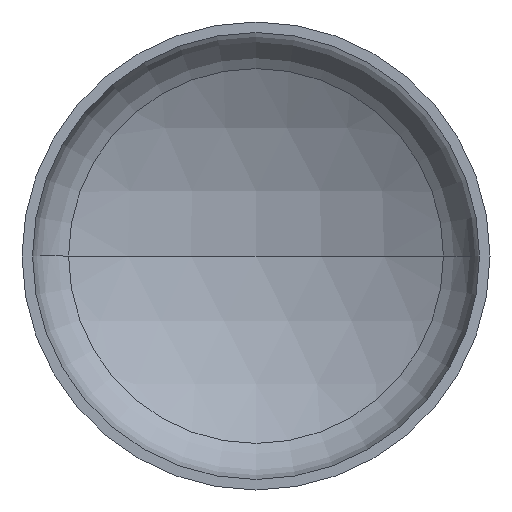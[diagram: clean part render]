
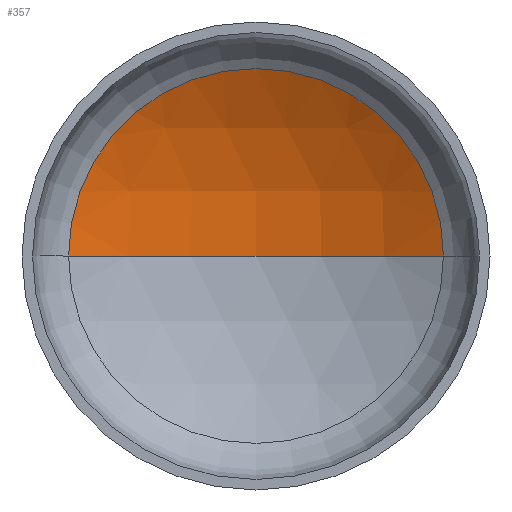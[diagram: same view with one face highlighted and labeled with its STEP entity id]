
A CAD part, front view. The second image highlights one B-rep face of the part: STEP entity #357.
In plain terms, the highlighted spherical face has radius 960 mm.
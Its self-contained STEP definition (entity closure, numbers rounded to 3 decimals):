
#13 = AXIS2_PLACEMENT_3D ( 'NONE', #282, #209, #160 ) ;
#23 = AXIS2_PLACEMENT_3D ( 'NONE', #188, #94, #97 ) ;
#25 = EDGE_LOOP ( 'NONE', ( #87, #70, #184 ) ) ;
#27 = AXIS2_PLACEMENT_3D ( 'NONE', #44, #39, #38 ) ;
#31 = AXIS2_PLACEMENT_3D ( 'NONE', #190, #189, #34 ) ;
#34 = DIRECTION ( 'NONE',  ( 1., 0., 0. ) ) ;
#38 = DIRECTION ( 'NONE',  ( -1., 0., 0. ) ) ;
#39 = DIRECTION ( 'NONE',  ( 0., 0., -1. ) ) ;
#44 = CARTESIAN_POINT ( 'NONE',  ( 0., -585.881, 0. ) ) ;
#70 = ORIENTED_EDGE ( 'NONE', *, *, #221, .T. ) ;
#87 = ORIENTED_EDGE ( 'NONE', *, *, #234, .F. ) ;
#94 = DIRECTION ( 'NONE',  ( 0., 0., 1. ) ) ;
#97 = DIRECTION ( 'NONE',  ( 1., 0., 0. ) ) ;
#106 = CIRCLE ( 'NONE', #31, 480.619 ) ;
#112 = VERTEX_POINT ( 'NONE', #239 ) ;
#160 = DIRECTION ( 'NONE',  ( -1., 0., 0. ) ) ;
#162 = VERTEX_POINT ( 'NONE', #238 ) ;
#184 = ORIENTED_EDGE ( 'NONE', *, *, #193, .T. ) ;
#185 = VERTEX_POINT ( 'NONE', #296 ) ;
#188 = CARTESIAN_POINT ( 'NONE',  ( 0., -585.881, 0. ) ) ;
#189 = DIRECTION ( 'NONE',  ( 0., -1., 0. ) ) ;
#190 = CARTESIAN_POINT ( 'NONE',  ( 0., 245.146, 0. ) ) ;
#191 = FACE_OUTER_BOUND ( 'NONE', #25, .T. ) ;
#193 = EDGE_CURVE ( 'NONE', #162, #185, #106, .T. ) ;
#209 = DIRECTION ( 'NONE',  ( 0., 0., -1. ) ) ;
#216 = CIRCLE ( 'NONE', #23, 960. ) ;
#221 = EDGE_CURVE ( 'NONE', #112, #162, #391, .T. ) ;
#234 = EDGE_CURVE ( 'NONE', #112, #185, #216, .T. ) ;
#238 = CARTESIAN_POINT ( 'NONE',  ( 480.619, 245.146, 0. ) ) ;
#239 = CARTESIAN_POINT ( 'NONE',  ( 0., 374.119, 0. ) ) ;
#282 = CARTESIAN_POINT ( 'NONE',  ( 0., -585.881, 0. ) ) ;
#296 = CARTESIAN_POINT ( 'NONE',  ( -480.619, 245.146, 0. ) ) ;
#357 = ADVANCED_FACE ( 'NONE', ( #191 ), #376, .F. ) ;
#376 = SPHERICAL_SURFACE ( 'NONE', #13, 960. ) ;
#391 = CIRCLE ( 'NONE', #27, 960. ) ;
